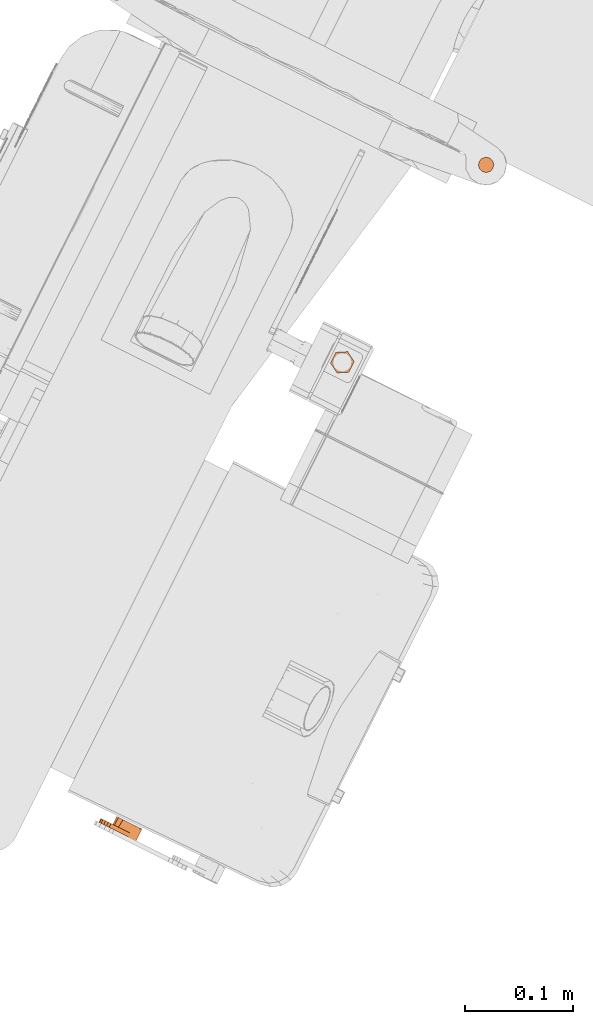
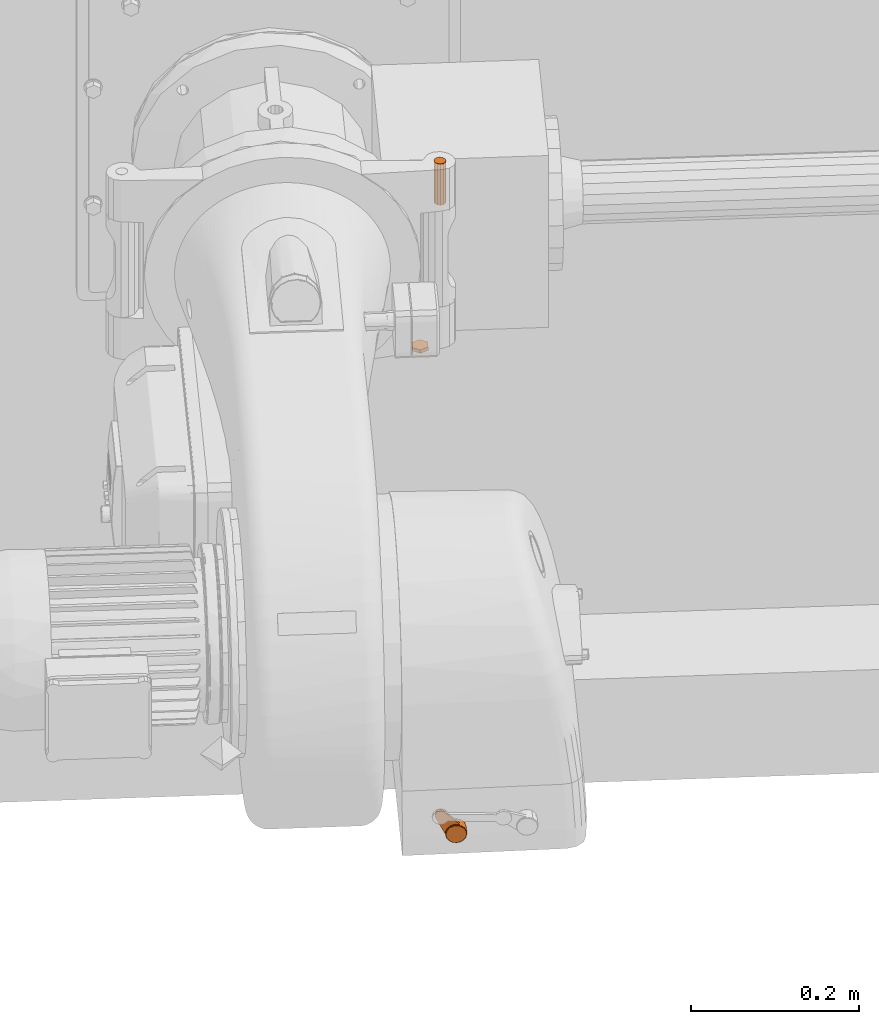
# One storey, part 201 of 206: 3 proxies.
"""IFC2X3 building model written with IfcOpenShell, lengths in metres."""

from ifc_helpers import new_model, si_unit, derived_unit, direction, frame, origin, place, context, subcontext, project, spatial, faceted_brep, source, transform, mapped, material, type_object, type_shapes, element, save


model = new_model("IFC2X3")

# Units and contexts
model_context = context("Model", 3, precision=5.2338327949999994e-05, world=origin(), true_north=direction((0.0, 1.0)))
body_context = subcontext(model_context, "Body", "Model", "MODEL_VIEW")
ifc_project = project(units=[si_unit("LENGTHUNIT", "METRE"), si_unit("AREAUNIT", "SQUARE_METRE"), si_unit("VOLUMEUNIT", "CUBIC_METRE"), si_unit("MASSUNIT", "GRAM", prefix="KILO"), si_unit("PLANEANGLEUNIT", "RADIAN"), derived_unit("THERMALTRANSMITTANCEUNIT", [(si_unit("MASSUNIT", "GRAM", prefix="KILO"), 1), (si_unit("THERMODYNAMICTEMPERATUREUNIT", "KELVIN"), -1), (si_unit("TIMEUNIT", "SECOND"), -3)])], contexts=[model_context])

# Site, building, storey
site_placement = place(None, frame((0.0, 0.0, 0.0), z_axis=(0.0, 0.0, 1.0), x_axis=(0.8939966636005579, -0.4480736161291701, 0.0)))
site = spatial("IfcSite", under=ifc_project, at=site_placement, Name="Default", CompositionType="ELEMENT")
building_placement = place(site_placement, origin())
building = spatial("IfcBuilding", under=site, at=building_placement, CompositionType="ELEMENT")
storey_placement = place(building_placement, origin())
storey = spatial("IfcBuildingStorey", under=building, at=storey_placement, Name="Erdgeschoss", CompositionType="ELEMENT", Elevation=0.0)

# Proxies
ifc_material_1 = material(Name="IfcSurfaceStyle #624876")
building_element_proxy_type_1 = type_object("IfcBuildingElementProxyType", Name="BuildingElementProxy 104:BuildingElementProxy 104", PredefinedType="NOTDEFINED", material=ifc_material_1)
shared_shape_1 = source(origin(), body_context, "Body", "Brep", [
    faceted_brep([(21.59402166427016, 4.506811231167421, 0.8838319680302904), (21.603521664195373, 4.501326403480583, 0.8838319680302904), (21.58452166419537, 4.501326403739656, 0.8838319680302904), (21.5845216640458, 4.490356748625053, 0.8838319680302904), (21.6035216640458, 4.490356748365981, 0.8838319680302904), (21.59402166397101, 4.484871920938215, 0.8838319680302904), (21.603521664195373, 4.501326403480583, 0.8888319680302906), (21.6035216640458, 4.490356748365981, 0.8888319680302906), (21.59402166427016, 4.506811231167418, 0.8888319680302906), (21.58452166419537, 4.501326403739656, 0.8888319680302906), (21.59402166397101, 4.484871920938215, 0.8888319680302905), (21.5845216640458, 4.490356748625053, 0.8888319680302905)], [[[0, 1, 2]], [[2, 1, 3]], [[1, 4, 3]], [[3, 4, 5]], [[1, 6, 4]], [[4, 6, 7]], [[0, 8, 1]], [[1, 8, 6]], [[2, 9, 0]], [[0, 9, 8]], [[10, 7, 11]], [[11, 7, 6]], [[11, 6, 9]], [[9, 6, 8]], [[4, 7, 5]], [[5, 7, 10]], [[5, 10, 3]], [[3, 10, 11]], [[3, 11, 2]], [[2, 11, 9]]]),
])
type_shapes(building_element_proxy_type_1, [shared_shape_1])
proxy_1_placement = place(storey_placement, origin())
element("IfcBuildingElementProxy", 1, at=proxy_1_placement, inside=storey, type_object=building_element_proxy_type_1, material=ifc_material_1, Name="BuildingElementProxy 104", context=body_context, shape_type="MappedRepresentation", body=[
    mapped(shared_shape_1, transform((0.0, 0.0, 0.0), scale=1.0)),
])
ifc_material_2 = material(Name="IfcSurfaceStyle #624289")
building_element_proxy_type_2 = type_object("IfcBuildingElementProxyType", Name="BuildingElementProxy 108:BuildingElementProxy 108", PredefinedType="NOTDEFINED", material=ifc_material_2)
shared_shape_2 = source(origin(), body_context, "Body", "Brep", [
    faceted_brep([(21.62030735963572, 4.013723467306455, 0.51618234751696), (21.620570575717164, 4.013761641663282, 0.516257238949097), (21.61834165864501, 4.0137234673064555, 0.5201300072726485), (21.618560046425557, 4.013761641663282, 0.5202949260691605), (21.615082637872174, 4.0137234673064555, 0.5231009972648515), (21.615226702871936, 4.013761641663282, 0.5233336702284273), (21.610970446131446, 4.013723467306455, 0.5246940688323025), (21.611020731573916, 4.013761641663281, 0.5249630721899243), (21.60656045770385, 4.013723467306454, 0.5246940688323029), (21.60651017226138, 4.013761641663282, 0.5249630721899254), (21.602448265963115, 4.013723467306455, 0.5231009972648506), (21.602304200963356, 4.013761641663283, 0.5233336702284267), (21.59918924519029, 4.013723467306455, 0.5201300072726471), (21.598970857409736, 4.013761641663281, 0.5202949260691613), (21.597223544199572, 4.013723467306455, 0.51618234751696), (21.59696032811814, 4.013761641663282, 0.5162572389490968), (21.596816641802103, 4.013723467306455, 0.5117911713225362), (21.596544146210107, 4.013761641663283, 0.511765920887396), (21.59802349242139, 4.013723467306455, 0.5075495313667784), (21.597778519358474, 4.013761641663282, 0.5074275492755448), (21.60068110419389, 4.013723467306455, 0.5040302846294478), (21.600496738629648, 4.013761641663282, 0.5038280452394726), (21.604430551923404, 4.013723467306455, 0.5017087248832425), (21.604331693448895, 4.013761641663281, 0.5014535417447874), (21.608765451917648, 4.013723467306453, 0.5008983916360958), (21.608765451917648, 4.013761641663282, 0.5006247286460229), (21.613100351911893, 4.0137234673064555, 0.5017087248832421), (21.613199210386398, 4.013761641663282, 0.5014535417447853), (21.61684979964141, 4.0137234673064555, 0.5040302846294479), (21.61703416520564, 4.013761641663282, 0.5038280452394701), (21.61950741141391, 4.0137234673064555, 0.507549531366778), (21.619752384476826, 4.013761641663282, 0.5074275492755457), (21.620714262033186, 4.013723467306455, 0.5117911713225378), (21.62098675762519, 4.013761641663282, 0.5117659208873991), (21.62076545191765, 4.013723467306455, 0.5128983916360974), (21.621709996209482, 4.014723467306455, 0.5116989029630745), (21.621693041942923, 4.014539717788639, 0.5117004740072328), (21.620402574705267, 4.014723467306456, 0.5071037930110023), (21.620387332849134, 4.014539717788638, 0.5071113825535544), (21.617523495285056, 4.014723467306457, 0.5032912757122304), (21.617512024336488, 4.014539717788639, 0.5033038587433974), (21.613461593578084, 4.014723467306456, 0.5007762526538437), (21.613455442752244, 4.014539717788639, 0.5007921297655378), (21.608765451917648, 4.014723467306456, 0.4998983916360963), (21.608765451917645, 4.014539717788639, 0.4999154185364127), (21.604069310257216, 4.014723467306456, 0.5007762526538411), (21.604075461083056, 4.014539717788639, 0.5007921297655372), (21.60000740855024, 4.014723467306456, 0.503291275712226), (21.600018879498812, 4.014539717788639, 0.5033038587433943), (21.597128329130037, 4.014723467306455, 0.5071037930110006), (21.597143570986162, 4.0145397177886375, 0.5071113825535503), (21.59582090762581, 4.014723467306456, 0.5116989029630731), (21.595837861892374, 4.0145397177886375, 0.5117004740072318), (21.5962617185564, 4.014723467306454, 0.5164560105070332), (21.596278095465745, 4.014539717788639, 0.5164513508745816), (21.598391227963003, 4.014723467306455, 0.5207326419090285), (21.59840481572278, 4.0145397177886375, 0.5207223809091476), (21.601921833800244, 4.014723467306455, 0.5239512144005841), (21.6019307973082, 4.014539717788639, 0.5239367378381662), (21.606376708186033, 4.014723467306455, 0.525677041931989), (21.606379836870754, 4.01453971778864, 0.5256603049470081), (21.611154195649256, 4.014723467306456, 0.5256770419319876), (21.611151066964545, 4.0145397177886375, 0.525660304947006), (21.615609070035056, 4.014723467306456, 0.5239512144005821), (21.615600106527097, 4.014539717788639, 0.5239367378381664), (21.61913967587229, 4.014723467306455, 0.520732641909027), (21.619126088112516, 4.0145397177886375, 0.520722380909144), (21.6212691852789, 4.014723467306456, 0.5164560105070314), (21.621252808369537, 4.014539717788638, 0.5164513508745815), (21.621765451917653, 4.014723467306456, 0.5128983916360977), (21.608765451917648, 4.013925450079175, 0.5002957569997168), (21.613318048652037, 4.013925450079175, 0.5011467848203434), (21.617255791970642, 4.013925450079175, 0.5035849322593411), (21.6200468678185, 4.013925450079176, 0.5072809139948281), (21.62131432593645, 4.013925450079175, 0.5117355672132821), (21.620886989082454, 4.013925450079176, 0.5163472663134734), (21.6188225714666, 4.013925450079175, 0.5204931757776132), (21.615399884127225, 4.013925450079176, 0.5236133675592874), (21.611081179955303, 4.013925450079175, 0.5252864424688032), (21.60644972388, 4.013925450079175, 0.5252864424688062), (21.60213101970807, 4.013925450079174, 0.5236133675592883), (21.5987083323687, 4.013925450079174, 0.5204931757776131), (21.596643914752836, 4.013925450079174, 0.5163472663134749), (21.596216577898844, 4.013925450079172, 0.5117355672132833), (21.5974840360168, 4.0139254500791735, 0.5072809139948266), (21.600275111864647, 4.0139254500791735, 0.5035849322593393), (21.604212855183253, 4.013925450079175, 0.5011467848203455), (21.608765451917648, 4.014197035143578, 0.5000481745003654), (21.613407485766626, 4.014197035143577, 0.5009159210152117), (21.617422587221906, 4.014197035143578, 0.5034019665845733), (21.6202684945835, 4.014197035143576, 0.5071705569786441), (21.621560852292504, 4.014197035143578, 0.5117127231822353), (21.62112512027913, 4.014197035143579, 0.5164150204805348), (21.619020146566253, 4.01419703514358, 0.5206423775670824), (21.615530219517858, 4.014197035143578, 0.5238238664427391), (21.611126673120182, 4.014197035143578, 0.5255298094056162), (21.606404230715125, 4.014197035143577, 0.5255298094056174), (21.602000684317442, 4.014197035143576, 0.5238238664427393), (21.598510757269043, 4.014197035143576, 0.5206423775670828), (21.59640578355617, 4.014197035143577, 0.5164150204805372), (21.595970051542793, 4.014197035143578, 0.5117127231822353), (21.5972624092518, 4.014197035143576, 0.507170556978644), (21.600108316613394, 4.0141970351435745, 0.5034019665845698), (21.604123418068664, 4.014197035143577, 0.5009159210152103), (21.59576545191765, 4.016176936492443, 0.5128983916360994), (21.61365825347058, 4.02017693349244, 0.5249424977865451), (21.61526545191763, 4.028393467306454, 0.5241567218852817), (21.62002378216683, 4.028393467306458, 0.519398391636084), (21.62176545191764, 4.028393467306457, 0.5128983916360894), (21.608765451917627, 4.028393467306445, 0.5258983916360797), (21.609839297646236, 4.020176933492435, 0.5258539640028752), (21.607425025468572, 4.020176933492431, 0.5258291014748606), (21.602265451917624, 4.028393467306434, 0.5241567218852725), (21.601506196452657, 4.0201769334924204, 0.523682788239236), (21.59750712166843, 4.028393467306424, 0.519398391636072), (21.597290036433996, 4.020176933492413, 0.5190069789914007), (21.595765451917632, 4.028393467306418, 0.5128983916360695), (21.595765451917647, 4.020176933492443, 0.5128983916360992), (21.59579015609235, 4.020176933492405, 0.5120973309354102), (21.597507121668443, 4.028393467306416, 0.5063983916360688), (21.602265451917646, 4.02839346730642, 0.5016400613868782), (21.608765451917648, 4.0283934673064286, 0.4998983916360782), (21.61526545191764, 4.02839346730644, 0.5016400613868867), (21.620023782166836, 4.028393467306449, 0.5063983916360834), (21.613658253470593, 4.016176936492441, 0.5249424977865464), (21.60742502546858, 4.016176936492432, 0.5258291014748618), (21.601506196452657, 4.016176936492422, 0.523682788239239), (21.597290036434, 4.016176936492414, 0.5190069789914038), (21.59621972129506, 4.01617693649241, 0.5163049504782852), (21.595790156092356, 4.016176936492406, 0.5120973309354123), (21.595469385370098, 4.016176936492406, 0.5127537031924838), (21.593353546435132, 4.016176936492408, 0.5170832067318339), (21.584272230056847, 4.016176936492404, 0.5356657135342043), (21.593957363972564, 4.016176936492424, 0.5443918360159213), (21.610058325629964, 4.016176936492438, 0.528496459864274), (21.59120328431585, 4.01617693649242, 0.5455226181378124), (21.588231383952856, 4.016176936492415, 0.5453453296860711), (21.585631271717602, 4.0161769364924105, 0.543895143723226), (21.583918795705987, 4.016176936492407, 0.5414597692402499), (21.583433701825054, 4.016176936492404, 0.5385223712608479), (21.61005832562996, 4.020176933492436, 0.5284964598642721), (21.593957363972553, 4.020176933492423, 0.5443918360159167), (21.595469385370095, 4.020176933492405, 0.51275370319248), (21.59335354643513, 4.020176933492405, 0.5170832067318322), (21.58427223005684, 4.020176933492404, 0.5356657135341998), (21.583433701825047, 4.0201769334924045, 0.5385223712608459), (21.583918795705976, 4.020176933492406, 0.5414597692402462), (21.585631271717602, 4.02017693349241, 0.5438951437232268), (21.588231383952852, 4.020176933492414, 0.5453453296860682), (21.59120328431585, 4.0201769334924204, 0.5455226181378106)], [[[0, 1, 2]], [[2, 1, 3]], [[2, 3, 4]], [[4, 3, 5]], [[4, 5, 6]], [[6, 5, 7]], [[6, 7, 8]], [[8, 7, 9]], [[8, 9, 10]], [[10, 9, 11]], [[10, 11, 12]], [[12, 11, 13]], [[12, 13, 14]], [[14, 13, 15]], [[14, 15, 16]], [[16, 15, 17]], [[16, 17, 18]], [[18, 17, 19]], [[18, 19, 20]], [[20, 19, 21]], [[20, 21, 22]], [[22, 21, 23]], [[22, 23, 24]], [[24, 23, 25]], [[24, 25, 26]], [[26, 25, 27]], [[26, 27, 28]], [[28, 27, 29]], [[28, 29, 30]], [[30, 29, 31]], [[30, 31, 32]], [[32, 31, 33]], [[32, 33, 34]], [[34, 33, 1]], [[34, 1, 0]], [[35, 36, 37]], [[37, 36, 38]], [[37, 38, 39]], [[39, 38, 40]], [[39, 40, 41]], [[41, 40, 42]], [[41, 42, 43]], [[43, 42, 44]], [[43, 44, 45]], [[45, 44, 46]], [[45, 46, 47]], [[47, 46, 48]], [[47, 48, 49]], [[49, 48, 50]], [[49, 50, 51]], [[51, 50, 52]], [[51, 52, 53]], [[53, 52, 54]], [[53, 54, 55]], [[55, 54, 56]], [[55, 56, 57]], [[57, 56, 58]], [[57, 58, 59]], [[59, 58, 60]], [[59, 60, 61]], [[61, 60, 62]], [[61, 62, 63]], [[63, 62, 64]], [[63, 64, 65]], [[65, 64, 66]], [[65, 66, 67]], [[67, 66, 68]], [[67, 68, 69]], [[69, 68, 36]], [[69, 36, 35]], [[25, 70, 27]], [[27, 70, 71]], [[27, 71, 29]], [[29, 71, 72]], [[29, 72, 31]], [[31, 72, 73]], [[31, 73, 33]], [[33, 73, 74]], [[33, 74, 1]], [[1, 74, 75]], [[1, 75, 3]], [[3, 75, 76]], [[3, 76, 5]], [[5, 76, 77]], [[5, 77, 7]], [[7, 77, 78]], [[7, 78, 9]], [[9, 78, 79]], [[9, 79, 11]], [[11, 79, 80]], [[11, 80, 13]], [[13, 80, 81]], [[13, 81, 15]], [[15, 81, 82]], [[15, 82, 17]], [[17, 82, 83]], [[17, 83, 19]], [[19, 83, 84]], [[19, 84, 21]], [[21, 84, 85]], [[21, 85, 23]], [[23, 85, 86]], [[23, 86, 25]], [[25, 86, 70]], [[70, 87, 71]], [[71, 87, 88]], [[71, 88, 72]], [[72, 88, 89]], [[72, 89, 73]], [[73, 89, 90]], [[73, 90, 74]], [[74, 90, 91]], [[74, 91, 75]], [[75, 91, 92]], [[75, 92, 76]], [[76, 92, 93]], [[76, 93, 77]], [[77, 93, 94]], [[77, 94, 78]], [[78, 94, 95]], [[78, 95, 79]], [[79, 95, 96]], [[79, 96, 80]], [[80, 96, 97]], [[80, 97, 81]], [[81, 97, 98]], [[81, 98, 82]], [[82, 98, 99]], [[82, 99, 83]], [[83, 99, 100]], [[83, 100, 84]], [[84, 100, 101]], [[84, 101, 85]], [[85, 101, 102]], [[85, 102, 86]], [[86, 102, 103]], [[86, 103, 70]], [[70, 103, 87]], [[87, 44, 88]], [[88, 44, 42]], [[88, 42, 89]], [[89, 42, 40]], [[89, 40, 90]], [[90, 40, 38]], [[90, 38, 91]], [[91, 38, 36]], [[91, 36, 92]], [[92, 36, 68]], [[92, 68, 93]], [[93, 68, 66]], [[93, 66, 94]], [[94, 66, 64]], [[94, 64, 95]], [[95, 64, 62]], [[95, 62, 96]], [[96, 62, 60]], [[96, 60, 97]], [[97, 60, 58]], [[97, 58, 98]], [[98, 58, 56]], [[98, 56, 99]], [[99, 56, 54]], [[99, 54, 100]], [[100, 54, 52]], [[100, 52, 101]], [[101, 52, 50]], [[101, 50, 102]], [[102, 50, 48]], [[102, 48, 103]], [[103, 48, 46]], [[103, 46, 87]], [[87, 46, 44]], [[6, 8, 4]], [[4, 8, 10]], [[4, 10, 2]], [[2, 10, 12]], [[2, 12, 0]], [[0, 12, 14]], [[0, 14, 34]], [[34, 14, 16]], [[34, 16, 32]], [[32, 16, 30]], [[16, 18, 30]], [[30, 18, 28]], [[18, 20, 28]], [[28, 20, 26]], [[20, 22, 26]], [[26, 22, 24]], [[53, 104, 51]], [[105, 63, 106]], [[106, 63, 65]], [[106, 65, 107]], [[107, 65, 67]], [[107, 67, 108]], [[108, 67, 69]], [[108, 69, 35]], [[106, 109, 105]], [[105, 109, 110]], [[110, 109, 111]], [[111, 109, 112]], [[111, 112, 113]], [[113, 112, 114]], [[113, 114, 115]], [[115, 114, 116]], [[115, 116, 117]], [[117, 116, 118]], [[116, 119, 118]], [[118, 119, 49]], [[118, 49, 51]], [[49, 119, 47]], [[47, 119, 120]], [[47, 120, 45]], [[45, 120, 121]], [[45, 121, 43]], [[43, 121, 41]], [[121, 122, 41]], [[41, 122, 39]], [[122, 123, 39]], [[39, 123, 37]], [[37, 123, 35]], [[35, 123, 108]], [[105, 124, 63]], [[63, 124, 61]], [[124, 125, 61]], [[61, 125, 59]], [[125, 126, 59]], [[59, 126, 57]], [[57, 126, 55]], [[55, 126, 127]], [[55, 127, 53]], [[53, 127, 128]], [[53, 128, 104]], [[51, 104, 129]], [[51, 129, 118]], [[129, 104, 130]], [[130, 104, 128]], [[130, 128, 131]], [[131, 128, 127]], [[131, 127, 132]], [[132, 127, 126]], [[132, 126, 133]], [[133, 126, 134]], [[126, 125, 134]], [[134, 125, 124]], [[135, 136, 133]], [[133, 136, 137]], [[133, 137, 132]], [[132, 137, 138]], [[132, 138, 139]], [[124, 105, 134]], [[134, 105, 140]], [[134, 140, 133]], [[133, 140, 141]], [[118, 129, 142]], [[142, 129, 130]], [[142, 130, 143]], [[143, 130, 131]], [[143, 131, 144]], [[144, 131, 132]], [[132, 139, 144]], [[144, 139, 145]], [[139, 138, 145]], [[145, 138, 146]], [[138, 137, 146]], [[146, 137, 147]], [[137, 136, 147]], [[147, 136, 148]], [[136, 135, 148]], [[148, 135, 149]], [[135, 133, 149]], [[149, 133, 141]], [[105, 110, 140]], [[140, 110, 111]], [[140, 111, 113]], [[118, 142, 117]], [[117, 142, 143]], [[117, 143, 115]], [[115, 143, 144]], [[115, 144, 113]], [[113, 144, 141]], [[113, 141, 140]], [[145, 146, 144]], [[144, 146, 147]], [[144, 147, 141]], [[141, 147, 148]], [[141, 148, 149]], [[122, 120, 123]], [[123, 120, 119]], [[123, 119, 108]], [[108, 119, 116]], [[108, 116, 107]], [[107, 116, 114]], [[107, 114, 106]], [[106, 114, 112]], [[106, 112, 109]], [[122, 121, 120]]]),
])
type_shapes(building_element_proxy_type_2, [shared_shape_2])
proxy_2_placement = place(storey_placement, origin())
element("IfcBuildingElementProxy", 2, at=proxy_2_placement, inside=storey, type_object=building_element_proxy_type_2, material=ifc_material_2, Name="BuildingElementProxy 108", context=body_context, shape_type="MappedRepresentation", body=[
    mapped(shared_shape_2, transform((0.0, 0.0, 0.0), scale=1.0)),
])
ifc_material_3 = material(Name="IfcSurfaceStyle #631137")
building_element_proxy_type_3 = type_object("IfcBuildingElementProxyType", Name="BuildingElementProxy 116:BuildingElementProxy 116", PredefinedType="NOTDEFINED", material=ifc_material_3)
shared_shape_3 = source(origin(), body_context, "Body", "Brep", [
    faceted_brep([(21.634510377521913, 4.711787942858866, 0.9398002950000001), (21.62738537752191, 4.7117879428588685, 0.9398002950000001), (21.637118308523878, 4.714395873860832, 0.9398002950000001), (21.62477744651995, 4.714395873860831, 0.9398002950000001), (21.638072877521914, 4.7179583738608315, 0.9398002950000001), (21.62382287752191, 4.717958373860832, 0.9398002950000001), (21.637118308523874, 4.721520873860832, 0.9398002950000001), (21.62477744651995, 4.721520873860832, 0.9398002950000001), (21.634510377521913, 4.7241288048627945, 0.9398002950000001), (21.627385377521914, 4.724128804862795, 0.9398002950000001), (21.630947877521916, 4.725083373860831, 0.9398002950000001), (21.630947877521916, 4.710833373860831, 0.9398002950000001), (21.637118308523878, 4.714395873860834, 1.0000282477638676), (21.638072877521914, 4.717958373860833, 1.0000282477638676), (21.63711830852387, 4.7215208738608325, 1.0000282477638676), (21.634510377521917, 4.724128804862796, 1.0000282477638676), (21.630947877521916, 4.725083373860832, 1.0000282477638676), (21.627385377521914, 4.724128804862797, 1.0000282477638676), (21.62477744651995, 4.721520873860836, 1.0000282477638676), (21.623822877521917, 4.717958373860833, 1.0000282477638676), (21.62477744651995, 4.714395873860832, 1.0000282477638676), (21.627385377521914, 4.711787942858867, 1.0000282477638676), (21.630947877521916, 4.710833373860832, 1.0000282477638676), (21.634510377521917, 4.7117879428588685, 1.0000282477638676)], [[[0, 1, 2]], [[2, 1, 3]], [[2, 3, 4]], [[4, 3, 5]], [[4, 5, 6]], [[6, 5, 7]], [[6, 7, 8]], [[8, 7, 9]], [[8, 9, 10]], [[0, 11, 1]], [[12, 4, 13]], [[13, 4, 6]], [[13, 6, 14]], [[14, 6, 8]], [[14, 8, 15]], [[15, 8, 10]], [[15, 10, 16]], [[16, 10, 9]], [[16, 9, 17]], [[17, 9, 7]], [[17, 7, 18]], [[18, 7, 5]], [[18, 5, 19]], [[19, 5, 3]], [[19, 3, 20]], [[20, 3, 1]], [[20, 1, 21]], [[21, 1, 11]], [[21, 11, 22]], [[22, 11, 0]], [[22, 0, 23]], [[23, 0, 2]], [[23, 2, 12]], [[12, 2, 4]], [[15, 17, 14]], [[14, 17, 18]], [[14, 18, 13]], [[13, 18, 19]], [[13, 19, 12]], [[12, 19, 20]], [[12, 20, 23]], [[23, 20, 21]], [[23, 21, 22]], [[15, 16, 17]]]),
])
type_shapes(building_element_proxy_type_3, [shared_shape_3])
proxy_3_placement = place(storey_placement, origin())
element("IfcBuildingElementProxy", 3, at=proxy_3_placement, inside=storey, type_object=building_element_proxy_type_3, material=ifc_material_3, Name="BuildingElementProxy 116", context=body_context, shape_type="MappedRepresentation", body=[
    mapped(shared_shape_3, transform((0.0, 0.0, 0.0), scale=1.0)),
])

save(model, "model.ifc")
